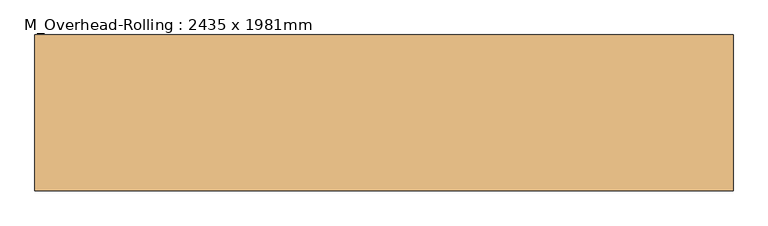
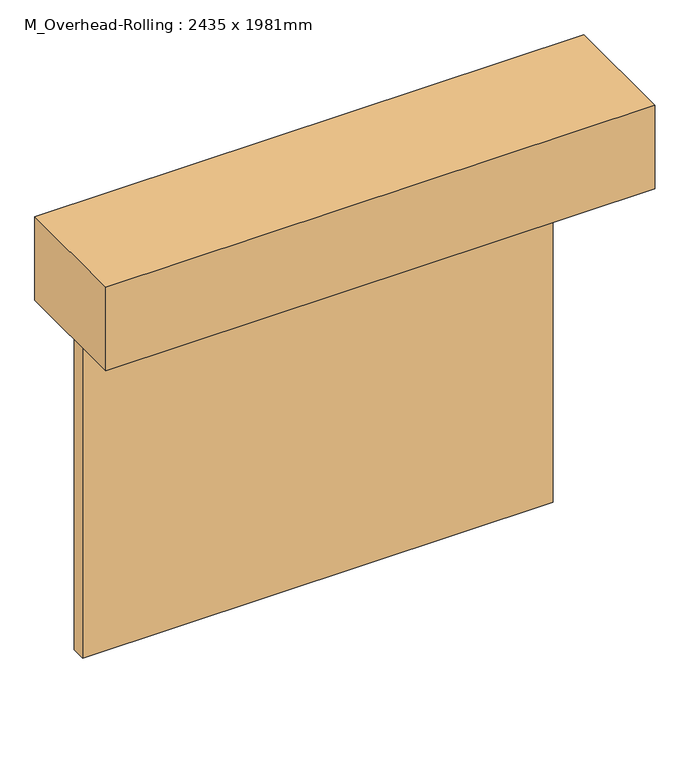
"""IFC4 building model written with IfcOpenShell, lengths in millimetres: door geometry, M_Overhead-Rolling : 2435 x 1981mm."""

import ifcopenshell
import ifcopenshell.guid

model = None  # the IFC model being written
_history = None  # IfcOwnerHistory: only IFC2X3 demands one
_inside = {}  # id of a spatial element -> (the spatial element, [elements in it])
_under = {}  # id of a project, library or spatial element -> (it, [spatial elements below it])
_declared = {}  # id of a project -> (the project, [libraries it declares])
_typed = {}  # id of a type object -> (the type object, [elements of that type])
_made_of = {}  # id of a material, layer set ... -> (it, [elements and type objects made of it])


def new_model(schema):
    """Start an empty IFC model of exactly this schema.

    Asked for "IFC4X3", IfcOpenShell would pick the latest addendum, in which some entities
    have other attributes; the version numbers below select the first issue.
    IFC2X3 requires an IfcOwnerHistory on every rooted entity: one is made here for all.
    """
    global model, _history
    if schema == "IFC4X3":
        model = ifcopenshell.file(schema_version=(4, 3, 0, 0))
    else:
        model = ifcopenshell.file(schema=schema)
    _inside.clear()
    _under.clear()
    _declared.clear()
    _typed.clear()
    _made_of.clear()
    _history = None
    if model.schema == "IFC2X3":
        org = make("IfcOrganization", Name="unknown")
        user = make(
            "IfcPersonAndOrganization",
            ThePerson=make("IfcPerson", FamilyName="unknown"),
            TheOrganization=org,
        )
        app = make(
            "IfcApplication",
            ApplicationDeveloper=org,
            Version="unknown",
            ApplicationFullName="unknown",
            ApplicationIdentifier="unknown",
        )
        _history = make(
            "IfcOwnerHistory",
            OwningUser=user,
            OwningApplication=app,
            ChangeAction="ADDED",
            CreationDate=0,
        )
    return model


def make(cls, **values):
    """One entity of the class cls with the attributes given. An attribute that is None is left unset."""
    return model.create_entity(
        cls, **{name: value for name, value in values.items() if value is not None}
    )


def rooted(cls, **values):
    """An entity with a GlobalId (a new one), such as an element, a storey or a relation."""
    return make(cls, GlobalId=ifcopenshell.guid.new(), OwnerHistory=_history, **values)


def si_unit(unit_type, name, prefix=None):
    """IfcSIUnit, for example si_unit("LENGTHUNIT", "METRE", prefix="MILLI")."""
    return make("IfcSIUnit", UnitType=unit_type, Prefix=prefix, Name=name)


def assignment(units):
    """IfcUnitAssignment: the units of a project."""
    return None if units is None else make("IfcUnitAssignment", Units=units)


def point(xyz):
    """IfcCartesianPoint."""
    return None if xyz is None else make("IfcCartesianPoint", Coordinates=xyz)


def direction(xyz):
    """IfcDirection."""
    return None if xyz is None else make("IfcDirection", DirectionRatios=xyz)


def frame(location, z_axis=None, x_axis=None):
    """IfcAxis2Placement3D, a coordinate frame: its origin and axes. An axis left out is left unset."""
    return make(
        "IfcAxis2Placement3D",
        Location=point(location),
        Axis=direction(z_axis),
        RefDirection=direction(x_axis),
    )


def origin():
    """The frame at (0, 0, 0) with its axes left unset."""
    return frame((0.0, 0.0, 0.0))


def origin_with_axes():
    """The frame at (0, 0, 0) with the z axis (0, 0, 1) and the x axis (1, 0, 0) written out."""
    return frame((0.0, 0.0, 0.0), z_axis=(0.0, 0.0, 1.0), x_axis=(1.0, 0.0, 0.0))


def place(relative_to, where):
    """IfcLocalPlacement: puts the frame where relative to a parent placement (None: the world)."""
    return make(
        "IfcLocalPlacement", PlacementRelTo=relative_to, RelativePlacement=where
    )


def context(
    kind, dimensions, precision=None, world=None, true_north=None, identifier=None
):
    """IfcGeometricRepresentationContext, for example the 3D "Model" context."""
    return make(
        "IfcGeometricRepresentationContext",
        ContextIdentifier=identifier,
        ContextType=kind,
        CoordinateSpaceDimension=dimensions,
        Precision=precision,
        WorldCoordinateSystem=world,
        TrueNorth=true_north,
    )


def project(units=None, contexts=None):
    """IfcProject with its units and contexts."""
    return rooted(
        "IfcProject",
        Name="project",
        RepresentationContexts=contexts,
        UnitsInContext=assignment(units),
    )


def spatial(cls, under=None, at=None, **own):
    """A site, building, storey or space (cls), placed at a placement, below another one or the project."""
    s = rooted(cls, ObjectPlacement=at, **own)
    if under is not None:
        _under.setdefault(under.id(), (under, []))[1].append(s)
    return s


def polyline(points):
    """IfcPolyline through the points."""
    return make("IfcPolyline", Points=[point(p) for p in points])


def outline(outer, holes=None, kind="AREA"):
    """IfcArbitraryClosedProfileDef: a profile drawn as a closed curve; with holes, ...WithVoids."""
    if holes is None:
        return make("IfcArbitraryClosedProfileDef", ProfileType=kind, OuterCurve=outer)
    return make(
        "IfcArbitraryProfileDefWithVoids",
        ProfileType=kind,
        OuterCurve=outer,
        InnerCurves=holes,
    )


def extrude(swept, where, along, depth):
    """IfcExtrudedAreaSolid: the profile swept, set in the frame where, extruded along a direction by depth."""
    return make(
        "IfcExtrudedAreaSolid",
        SweptArea=swept,
        Position=where,
        ExtrudedDirection=direction(along),
        Depth=depth,
    )


def shape(context_of_items, identifier, shape_type, items):
    """IfcShapeRepresentation: the items that make up one representation, for example the "Body"."""
    return make(
        "IfcShapeRepresentation",
        ContextOfItems=context_of_items,
        RepresentationIdentifier=identifier,
        RepresentationType=shape_type,
        Items=items,
    )


def source(mapping_origin, context_of_items, identifier, shape_type, items):
    """IfcRepresentationMap: a shape defined once, which mapped items show again and again."""
    return make(
        "IfcRepresentationMap",
        MappingOrigin=mapping_origin,
        MappedRepresentation=shape(context_of_items, identifier, shape_type, items),
    )


def transform(
    local_origin,
    x_axis=None,
    y_axis=None,
    z_axis=None,
    scale=None,
    scale2=None,
    scale3=None,
    uniform=True,
):
    """IfcCartesianTransformationOperator3D, or its non-uniform kind. x_axis, y_axis, z_axis: its Axis1, 2, 3."""
    if uniform:
        return make(
            "IfcCartesianTransformationOperator3D",
            Axis1=direction(x_axis),
            Axis2=direction(y_axis),
            LocalOrigin=point(local_origin),
            Scale=scale,
            Axis3=direction(z_axis),
        )
    return make(
        "IfcCartesianTransformationOperator3DnonUniform",
        Axis1=direction(x_axis),
        Axis2=direction(y_axis),
        LocalOrigin=point(local_origin),
        Scale=scale,
        Axis3=direction(z_axis),
        Scale2=scale2,
        Scale3=scale3,
    )


def mapped(mapping_source, mapping_target):
    """IfcMappedItem: shows the shape of a source again, moved by a transform."""
    return make(
        "IfcMappedItem", MappingSource=mapping_source, MappingTarget=mapping_target
    )


def made_of(thing, what):
    """Note that an element or type object is made of a material, layer set ...; save() writes the relation."""
    if what is not None:
        _made_of.setdefault(what.id(), (what, []))[1].append(thing)
    return thing


def element(
    cls,
    number,
    at=None,
    inside=None,
    cuts=None,
    type_object=None,
    material=None,
    context=None,
    identifier="Body",
    shape_type=None,
    held_by="IfcProductDefinitionShape",
    body=None,
    shapes=None,
    **own,
):
    """One element of the class cls, such as IfcWall. Its Tag is "e" and its number.

    at: its placement. inside: the storey or other place that contains it. cuts: it is an
    opening in that element (IfcRelVoidsElement). A single representation is given by context,
    identifier, shape_type and body (its items); several are given by shapes. held_by: the class
    of the entity that holds the representations. save() writes the other relations.
    """
    e = rooted(cls, Tag="e%d" % number, ObjectPlacement=at, **own)
    if body is not None:
        shapes = [shape(context, identifier, shape_type, body)]
    if shapes is not None:
        e.Representation = make(held_by, Representations=shapes)
    if inside is not None:
        _inside.setdefault(inside.id(), (inside, []))[1].append(e)
    if cuts is not None:
        rooted(
            "IfcRelVoidsElement", RelatingBuildingElement=cuts, RelatedOpeningElement=e
        )
    if type_object is not None:
        _typed.setdefault(type_object.id(), (type_object, []))[1].append(e)
    return made_of(e, material)


def aggregate(whole, parts):
    """IfcRelAggregates: a whole, such as a stair, and the parts it consists of."""
    return rooted("IfcRelAggregates", RelatingObject=whole, RelatedObjects=parts)


def save(model, path):
    """Write the relations noted so far, then the file.

    IfcRelAggregates (storeys below a building ...), IfcRelContainedInSpatialStructure (elements
    in a storey), IfcRelDefinesByType, IfcRelAssociatesMaterial and IfcRelDeclares: one each for
    every whole, place, type object, material and project.
    """
    for whole, parts in _under.values():
        aggregate(whole, parts)
    for where, things in _inside.values():
        rooted(
            "IfcRelContainedInSpatialStructure",
            RelatedElements=things,
            RelatingStructure=where,
        )
    for kind, things in _typed.values():
        rooted("IfcRelDefinesByType", RelatedObjects=things, RelatingType=kind)
    for what, things in _made_of.values():
        rooted("IfcRelAssociatesMaterial", RelatedObjects=things, RelatingMaterial=what)
    for by, libraries in _declared.values():
        rooted("IfcRelDeclares", RelatingContext=by, RelatedDefinitions=libraries)
    model.write(path)


def m_overhead_rolling_2435_x_1981mm_c1345ebb(model_context):
    return source(origin(), model_context, "Body", "SweptSolid", [
        extrude(outline(polyline([(1217.5, -160.0), (1217.5, -236.0), (-1217.5, -236.0), (-1217.5, -160.0), (1217.5, -160.0)])), origin_with_axes(), (0.0, 0.0, 1.0), 1981.0),
        extrude(outline(polyline([(1420.7, -794.8), (-1420.7, -794.8), (-1420.7, -160.0), (1420.7, -160.0), (1420.7, -794.8)])), frame((0.0, 0.0, 1981.0), z_axis=(0.0, 0.0, 1.0), x_axis=(1.0, 0.0, 0.0)), (0.0, 0.0, 1.0), 457.2),
    ])


if __name__ == "__main__":
    model = new_model("IFC4")
    model_context = context("Model", 3, world=origin())
    ifc_project = project(units=[si_unit("LENGTHUNIT", "METRE", prefix="MILLI")], contexts=[model_context])
    site = spatial("IfcSite", under=ifc_project)
    building = spatial("IfcBuilding", under=site)
    placement = place(None, origin())
    m_overhead_rolling_2435_x_1981mm_shape = m_overhead_rolling_2435_x_1981mm_c1345ebb(model_context)
    element("IfcDoor", 1, ObjectType="M_Overhead-Rolling : 2435 x 1981mm", at=placement, inside=building, context=model_context, shape_type="MappedRepresentation", body=[
        mapped(m_overhead_rolling_2435_x_1981mm_shape, transform((0.0, 0.0, 0.0), x_axis=(1.0, 0.0, 0.0), y_axis=(0.0, 1.0, 0.0), z_axis=(0.0, 0.0, 1.0))),
    ])
    save(model, "model.ifc")
